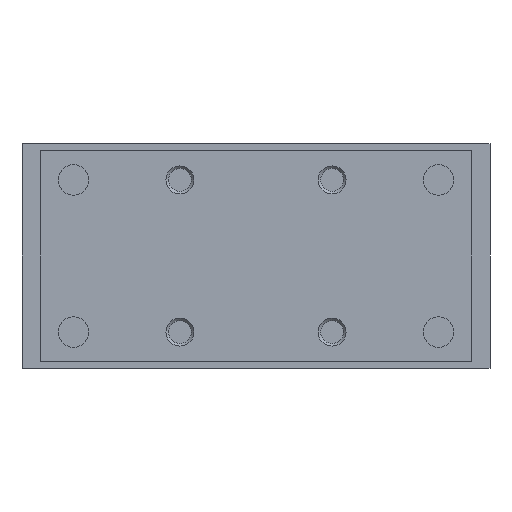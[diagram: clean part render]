
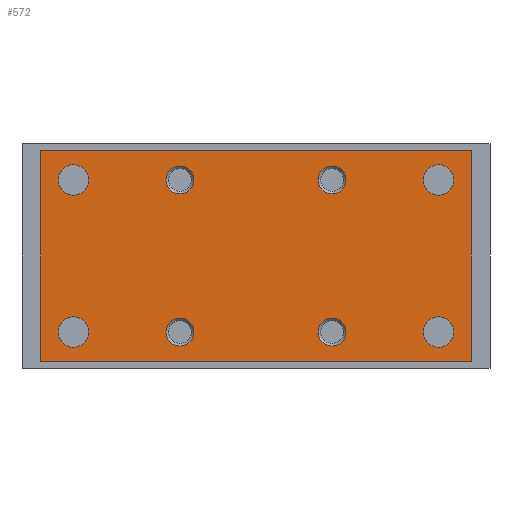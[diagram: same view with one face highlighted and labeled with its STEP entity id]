
A CAD part, left-side view. The second image highlights one B-rep face of the part: STEP entity #572.
In plain terms, the highlighted planar face has unit normal (-1, 0, 0).
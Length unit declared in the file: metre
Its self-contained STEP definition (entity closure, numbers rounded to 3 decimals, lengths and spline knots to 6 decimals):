
#572 = ADVANCED_FACE( '', ( #1317, #1318, #1319, #1320, #1321, #1322, #1323, #1324, #1325 ), #1326, .T. );
#1317 = FACE_BOUND( '', #2137, .T. );
#1318 = FACE_BOUND( '', #2138, .T. );
#1319 = FACE_BOUND( '', #2139, .T. );
#1320 = FACE_BOUND( '', #2140, .T. );
#1321 = FACE_BOUND( '', #2141, .T. );
#1322 = FACE_BOUND( '', #2142, .T. );
#1323 = FACE_BOUND( '', #2143, .T. );
#1324 = FACE_BOUND( '', #2144, .T. );
#1325 = FACE_OUTER_BOUND( '', #2145, .T. );
#1326 = PLANE( '', #2146 );
#2137 = EDGE_LOOP( '', ( #3467 ) );
#2138 = EDGE_LOOP( '', ( #3468 ) );
#2139 = EDGE_LOOP( '', ( #3469 ) );
#2140 = EDGE_LOOP( '', ( #3470 ) );
#2141 = EDGE_LOOP( '', ( #3471 ) );
#2142 = EDGE_LOOP( '', ( #3472 ) );
#2143 = EDGE_LOOP( '', ( #3473 ) );
#2144 = EDGE_LOOP( '', ( #3474 ) );
#2145 = EDGE_LOOP( '', ( #3475, #3476, #3477, #3478 ) );
#2146 = AXIS2_PLACEMENT_3D( '', #3479, #3480, #3481 );
#3467 = ORIENTED_EDGE( '', *, *, #4231, .F. );
#3468 = ORIENTED_EDGE( '', *, *, #4056, .F. );
#3469 = ORIENTED_EDGE( '', *, *, #3948, .F. );
#3470 = ORIENTED_EDGE( '', *, *, #3966, .F. );
#3471 = ORIENTED_EDGE( '', *, *, #4084, .T. );
#3472 = ORIENTED_EDGE( '', *, *, #4190, .F. );
#3473 = ORIENTED_EDGE( '', *, *, #3828, .F. );
#3474 = ORIENTED_EDGE( '', *, *, #3997, .T. );
#3475 = ORIENTED_EDGE( '', *, *, #4093, .T. );
#3476 = ORIENTED_EDGE( '', *, *, #4016, .T. );
#3477 = ORIENTED_EDGE( '', *, *, #3891, .T. );
#3478 = ORIENTED_EDGE( '', *, *, #4255, .T. );
#3479 = CARTESIAN_POINT( '', ( -0.06225, -0.046, -0.0015 ) );
#3480 = DIRECTION( '', ( -1., 0., 0. ) );
#3481 = DIRECTION( '', ( 0., 0., 1. ) );
#3828 = EDGE_CURVE( '', #4402, #4402, #4403, .T. );
#3891 = EDGE_CURVE( '', #4504, #4502, #4505, .T. );
#3948 = EDGE_CURVE( '', #4592, #4592, #4593, .T. );
#3966 = EDGE_CURVE( '', #4617, #4617, #4618, .T. );
#3997 = EDGE_CURVE( '', #4669, #4669, #4670, .T. );
#4016 = EDGE_CURVE( '', #4696, #4504, #4697, .T. );
#4056 = EDGE_CURVE( '', #4763, #4763, #4764, .T. );
#4084 = EDGE_CURVE( '', #4802, #4802, #4803, .T. );
#4093 = EDGE_CURVE( '', #4816, #4696, #4817, .T. );
#4190 = EDGE_CURVE( '', #4956, #4956, #4957, .T. );
#4231 = EDGE_CURVE( '', #5008, #5008, #5009, .T. );
#4255 = EDGE_CURVE( '', #4502, #4816, #5031, .T. );
#4402 = VERTEX_POINT( '', #5228 );
#4403 = CIRCLE( '', #5229, 0.003 );
#4502 = VERTEX_POINT( '', #5382 );
#4504 = VERTEX_POINT( '', #5385 );
#4505 = LINE( '', #5386, #5387 );
#4592 = VERTEX_POINT( '', #5494 );
#4593 = CIRCLE( '', #5495, 0.00325 );
#4617 = VERTEX_POINT( '', #5519 );
#4618 = CIRCLE( '', #5520, 0.00325 );
#4669 = VERTEX_POINT( '', #5580 );
#4670 = CIRCLE( '', #5581, 0.003 );
#4696 = VERTEX_POINT( '', #5644 );
#4697 = LINE( '', #5645, #5646 );
#4763 = VERTEX_POINT( '', #5732 );
#4764 = CIRCLE( '', #5733, 0.00325 );
#4802 = VERTEX_POINT( '', #5811 );
#4803 = CIRCLE( '', #5812, 0.003 );
#4816 = VERTEX_POINT( '', #5825 );
#4817 = LINE( '', #5826, #5827 );
#4956 = VERTEX_POINT( '', #5994 );
#4957 = CIRCLE( '', #5995, 0.003 );
#5008 = VERTEX_POINT( '', #6090 );
#5009 = CIRCLE( '', #6091, 0.00325 );
#5031 = LINE( '', #6119, #6120 );
#5228 = CARTESIAN_POINT( '', ( -0.06225, -0.01625, -0.01075 ) );
#5229 = AXIS2_PLACEMENT_3D( '', #6304, #6305, #6306 );
#5382 = CARTESIAN_POINT( '', ( -0.06225, 0.046, -0.0465 ) );
#5385 = CARTESIAN_POINT( '', ( -0.06225, 0.046, -0.0015 ) );
#5386 = CARTESIAN_POINT( '', ( -0.06225, 0.046, -0.0015 ) );
#5387 = VECTOR( '', #6386, 1. );
#5494 = CARTESIAN_POINT( '', ( -0.06225, -0.04225, -0.00775 ) );
#5495 = AXIS2_PLACEMENT_3D( '', #6458, #6459, #6460 );
#5519 = CARTESIAN_POINT( '', ( -0.06225, 0.03575, -0.00775 ) );
#5520 = AXIS2_PLACEMENT_3D( '', #6485, #6486, #6487 );
#5580 = CARTESIAN_POINT( '', ( -0.06225, 0.01625, -0.01075 ) );
#5581 = AXIS2_PLACEMENT_3D( '', #6539, #6540, #6541 );
#5644 = CARTESIAN_POINT( '', ( -0.06225, -0.046, -0.0015 ) );
#5645 = CARTESIAN_POINT( '', ( -0.06225, -0.046, -0.0015 ) );
#5646 = VECTOR( '', #6558, 1. );
#5732 = CARTESIAN_POINT( '', ( -0.06225, 0.03575, -0.04025 ) );
#5733 = AXIS2_PLACEMENT_3D( '', #6603, #6604, #6605 );
#5811 = CARTESIAN_POINT( '', ( -0.06225, -0.01625, -0.03725 ) );
#5812 = AXIS2_PLACEMENT_3D( '', #6634, #6635, #6636 );
#5825 = CARTESIAN_POINT( '', ( -0.06225, -0.046, -0.0465 ) );
#5826 = CARTESIAN_POINT( '', ( -0.06225, -0.046, -0.0465 ) );
#5827 = VECTOR( '', #6649, 1. );
#5994 = CARTESIAN_POINT( '', ( -0.06225, 0.01625, -0.03725 ) );
#5995 = AXIS2_PLACEMENT_3D( '', #6771, #6772, #6773 );
#6090 = CARTESIAN_POINT( '', ( -0.06225, -0.04225, -0.04025 ) );
#6091 = AXIS2_PLACEMENT_3D( '', #6809, #6810, #6811 );
#6119 = CARTESIAN_POINT( '', ( -0.06225, 0.046, -0.0465 ) );
#6120 = VECTOR( '', #6821, 1. );
#6304 = CARTESIAN_POINT( '', ( -0.06225, -0.01625, -0.00775 ) );
#6305 = DIRECTION( '', ( -1., 0., 0. ) );
#6306 = DIRECTION( '', ( 0., 0., -1. ) );
#6386 = DIRECTION( '', ( 0., 0., -1. ) );
#6458 = CARTESIAN_POINT( '', ( -0.06225, -0.039, -0.00775 ) );
#6459 = DIRECTION( '', ( -1., 0., 0. ) );
#6460 = DIRECTION( '', ( 0., -1., 0. ) );
#6485 = CARTESIAN_POINT( '', ( -0.06225, 0.039, -0.00775 ) );
#6486 = DIRECTION( '', ( -1., 0., 0. ) );
#6487 = DIRECTION( '', ( 0., -1., 0. ) );
#6539 = CARTESIAN_POINT( '', ( -0.06225, 0.01625, -0.00775 ) );
#6540 = DIRECTION( '', ( 1., 0., 0. ) );
#6541 = DIRECTION( '', ( 0., 0., -1. ) );
#6558 = DIRECTION( '', ( 0., 1., 0. ) );
#6603 = CARTESIAN_POINT( '', ( -0.06225, 0.039, -0.04025 ) );
#6604 = DIRECTION( '', ( -1., 0., 0. ) );
#6605 = DIRECTION( '', ( 0., -1., 0. ) );
#6634 = CARTESIAN_POINT( '', ( -0.06225, -0.01625, -0.04025 ) );
#6635 = DIRECTION( '', ( 1., 0., 0. ) );
#6636 = DIRECTION( '', ( 0., 0., 1. ) );
#6649 = DIRECTION( '', ( 0., 0., 1. ) );
#6771 = CARTESIAN_POINT( '', ( -0.06225, 0.01625, -0.04025 ) );
#6772 = DIRECTION( '', ( -1., 0., 0. ) );
#6773 = DIRECTION( '', ( 0., 0., 1. ) );
#6809 = CARTESIAN_POINT( '', ( -0.06225, -0.039, -0.04025 ) );
#6810 = DIRECTION( '', ( -1., 0., 0. ) );
#6811 = DIRECTION( '', ( 0., -1., 0. ) );
#6821 = DIRECTION( '', ( 0., -1., 0. ) );
